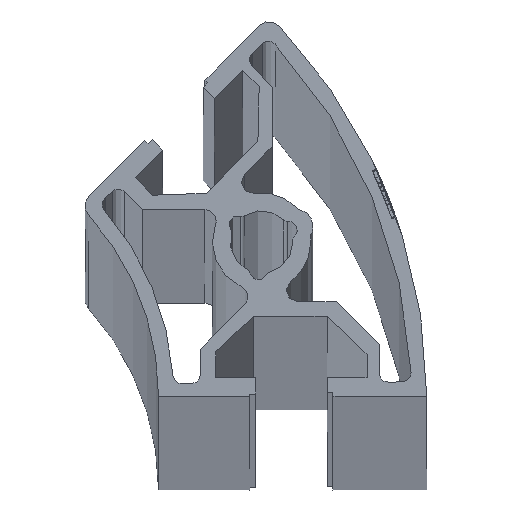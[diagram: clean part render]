
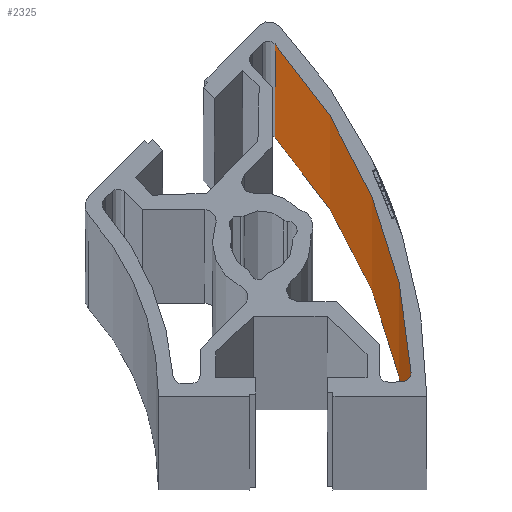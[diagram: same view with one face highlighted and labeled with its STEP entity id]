
A CAD part, top view. The second image highlights one B-rep face of the part: STEP entity #2325.
In plain terms, the highlighted cylindrical face has radius 58.526 mm (diameter 117.052 mm), a partial arc.
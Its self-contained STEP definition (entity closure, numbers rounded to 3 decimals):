
#419 = DIRECTION ( 'NONE',  ( 0., 0., 1. ) ) ;
#648 = CARTESIAN_POINT ( 'NONE',  ( 25.643, 39.784, -6000. ) ) ;
#1116 = ORIENTED_EDGE ( 'NONE', *, *, #3034, .T. ) ;
#1657 = VERTEX_POINT ( 'NONE', #6785 ) ;
#2064 = EDGE_CURVE ( 'NONE', #3028, #1657, #3980, .T. ) ;
#2325 = ADVANCED_FACE ( 'NONE', ( #10159 ), #5031, .F. ) ;
#2993 = EDGE_CURVE ( 'NONE', #7765, #1657, #5825, .T. ) ;
#3028 = VERTEX_POINT ( 'NONE', #3650 ) ;
#3034 = EDGE_CURVE ( 'NONE', #9867, #3028, #4560, .T. ) ;
#3650 = CARTESIAN_POINT ( 'NONE',  ( 40.871, 3.019, 0. ) ) ;
#3980 = CIRCLE ( 'NONE', #10343, 58.526 ) ;
#4512 = CARTESIAN_POINT ( 'NONE',  ( -17.593, 0.339, 0. ) ) ;
#4560 = LINE ( 'NONE', #11348, #9711 ) ;
#4563 = CARTESIAN_POINT ( 'NONE',  ( 25.643, 39.784, -6000. ) ) ;
#4724 = DIRECTION ( 'NONE',  ( 0., 0., 1. ) ) ;
#5031 = CYLINDRICAL_SURFACE ( 'NONE', #5597, 58.526 ) ;
#5508 = DIRECTION ( 'NONE',  ( 1., 0., 0. ) ) ;
#5595 = EDGE_LOOP ( 'NONE', ( #12242, #6153, #10834, #1116 ) ) ;
#5597 = AXIS2_PLACEMENT_3D ( 'NONE', #7617, #4724, #8544 ) ;
#5609 = DIRECTION ( 'NONE',  ( 0., 0., 1. ) ) ;
#5825 = LINE ( 'NONE', #4563, #10003 ) ;
#6153 = ORIENTED_EDGE ( 'NONE', *, *, #2993, .F. ) ;
#6173 = CARTESIAN_POINT ( 'NONE',  ( -17.593, 0.339, -6000. ) ) ;
#6785 = CARTESIAN_POINT ( 'NONE',  ( 25.643, 39.784, 0. ) ) ;
#7131 = DIRECTION ( 'NONE',  ( 1., 0., 0. ) ) ;
#7617 = CARTESIAN_POINT ( 'NONE',  ( -17.593, 0.339, -6000. ) ) ;
#7765 = VERTEX_POINT ( 'NONE', #648 ) ;
#8233 = CIRCLE ( 'NONE', #11013, 58.526 ) ;
#8544 = DIRECTION ( 'NONE',  ( 1., 0., 0. ) ) ;
#9200 = EDGE_CURVE ( 'NONE', #9867, #7765, #8233, .T. ) ;
#9711 = VECTOR ( 'NONE', #5609, 1000. ) ;
#9752 = CARTESIAN_POINT ( 'NONE',  ( 40.871, 3.019, -6000. ) ) ;
#9867 = VERTEX_POINT ( 'NONE', #9752 ) ;
#10003 = VECTOR ( 'NONE', #12270, 1000. ) ;
#10159 = FACE_OUTER_BOUND ( 'NONE', #5595, .T. ) ;
#10343 = AXIS2_PLACEMENT_3D ( 'NONE', #4512, #11254, #5508 ) ;
#10834 = ORIENTED_EDGE ( 'NONE', *, *, #9200, .F. ) ;
#11013 = AXIS2_PLACEMENT_3D ( 'NONE', #6173, #419, #7131 ) ;
#11254 = DIRECTION ( 'NONE',  ( 0., 0., 1. ) ) ;
#11348 = CARTESIAN_POINT ( 'NONE',  ( 40.871, 3.019, -6000. ) ) ;
#12242 = ORIENTED_EDGE ( 'NONE', *, *, #2064, .T. ) ;
#12270 = DIRECTION ( 'NONE',  ( 0., 0., 1. ) ) ;
